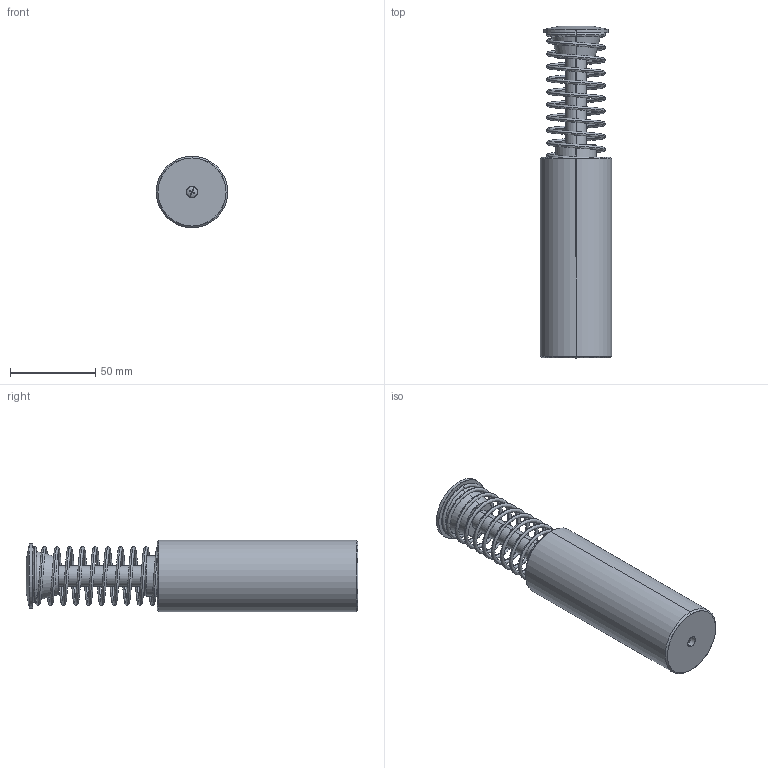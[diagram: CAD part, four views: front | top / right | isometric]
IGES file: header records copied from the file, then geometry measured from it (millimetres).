
Start section: SolidWorks IGES file using analytic representation for surfaces
Bounding box: 42 x 195 x 42 mm (x, y, z)
Surface area: 36565 mm2 (no closed solid volume)
Topology: 0 solids, 0 shells, 92 faces, 1443 edges, 1443 vertices
Faces by surface type: revolution 56, bspline 36
